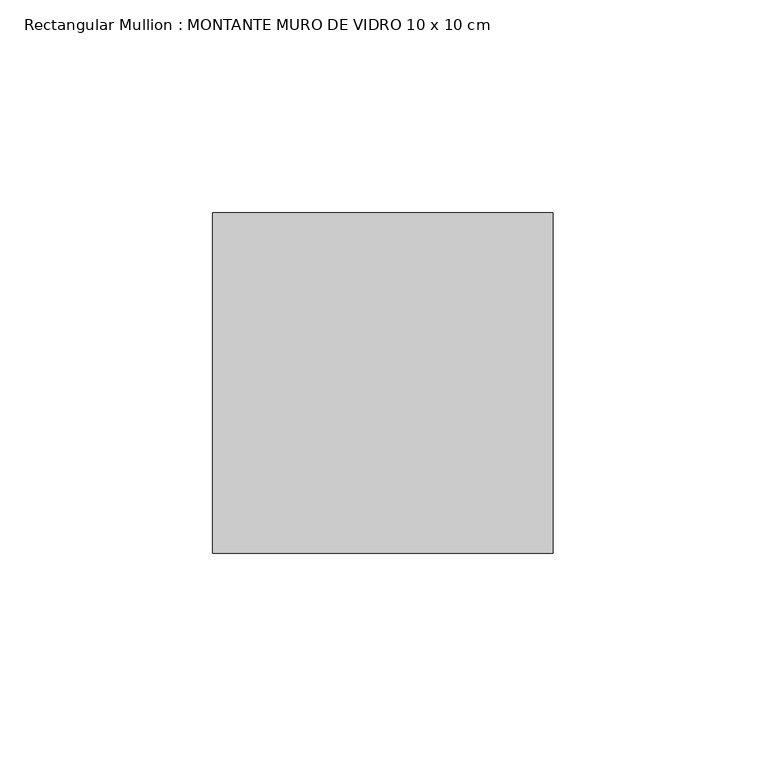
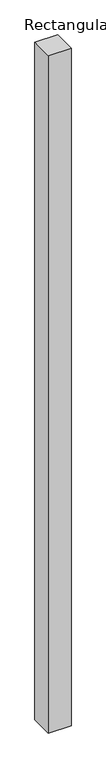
"""IFC4 building model written with IfcOpenShell, lengths in millimetres: member geometry, Rectangular Mullion : MONTANTE MURO DE VIDRO 10 x 10 cm."""

from ifc_helpers import new_model, si_unit, frame, origin, place, context, project, spatial, polyline, outline, extrude, source, transform, mapped, element, save


def rectangular_mullion_montante_muro_de_vidro_10_x_10_cm_6746ef01(model_context):
    return source(origin(), model_context, "Body", "SweptSolid", [
        extrude(outline(polyline([(40.0, 40.0), (40.0, -40.0), (-40.0, -40.0), (-40.0, 40.0), (40.0, 40.0)])), frame((0.0, 0.0, -2500.0), z_axis=(0.0, 0.0, 1.0), x_axis=(1.0, 0.0, 0.0)), (0.0, 0.0, 1.0), 2500.0),
    ])


if __name__ == "__main__":
    model = new_model("IFC4")
    model_context = context("Model", 3, world=origin())
    ifc_project = project(units=[si_unit("LENGTHUNIT", "METRE", prefix="MILLI")], contexts=[model_context])
    site = spatial("IfcSite", under=ifc_project)
    building = spatial("IfcBuilding", under=site)
    placement = place(None, origin())
    rectangular_mullion_montante_muro_de_vidro_10_x_10_cm_shape = rectangular_mullion_montante_muro_de_vidro_10_x_10_cm_6746ef01(model_context)
    element("IfcMember", 1, ObjectType="Rectangular Mullion : MONTANTE MURO DE VIDRO 10 x 10 cm", at=placement, inside=building, context=model_context, shape_type="MappedRepresentation", body=[
        mapped(rectangular_mullion_montante_muro_de_vidro_10_x_10_cm_shape, transform((0.0, 0.0, 0.0), x_axis=(1.0, 0.0, 0.0), y_axis=(0.0, 1.0, 0.0), z_axis=(0.0, 0.0, 1.0))),
    ])
    save(model, "model.ifc")
